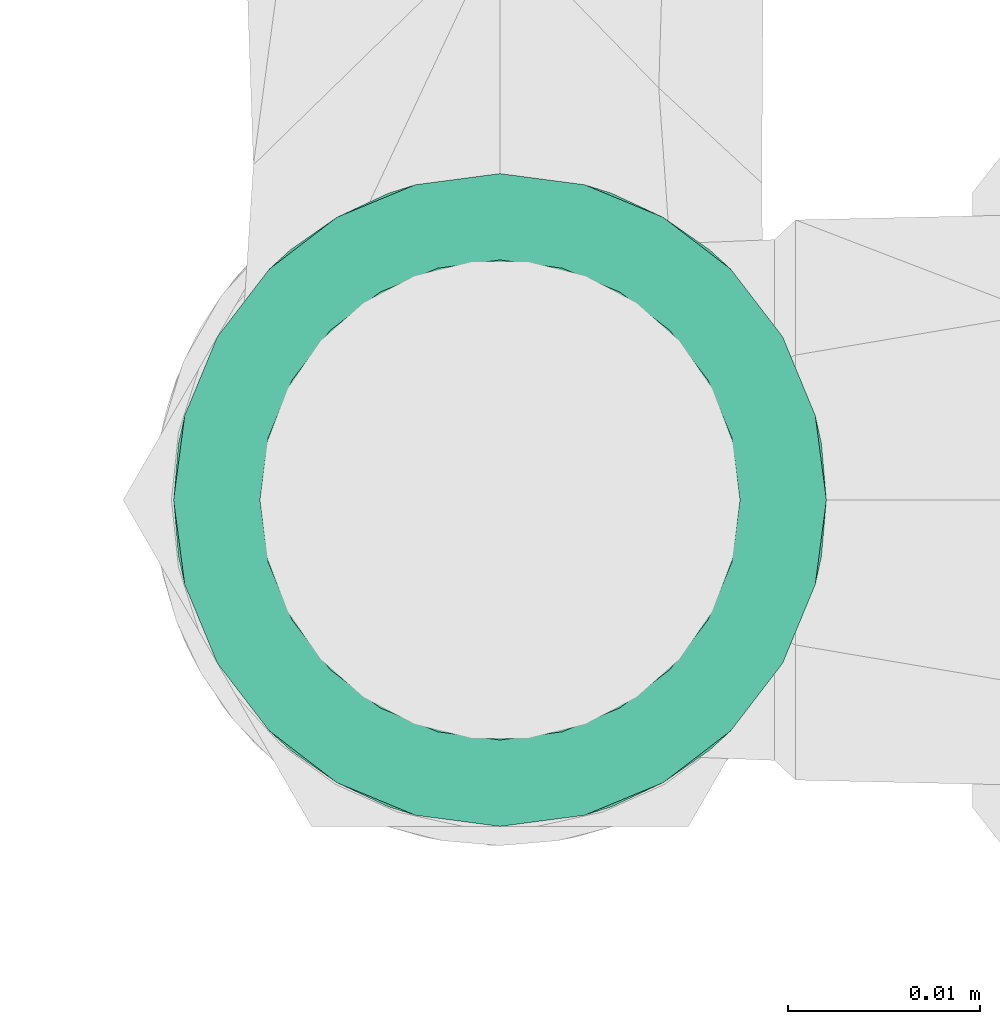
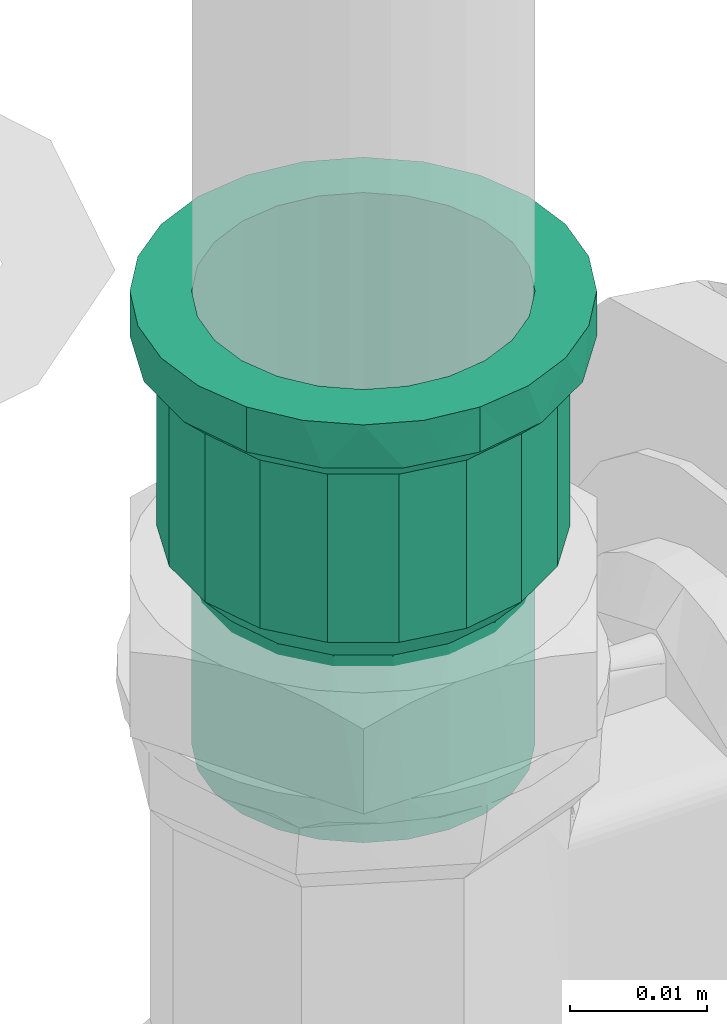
# One storey, part 360 of 589: 1 flow fitting.
"""IFC2X3 building model written with IfcOpenShell, lengths in millimetres."""

import ifcopenshell
import ifcopenshell.guid

model = None  # the IFC model being written
_history = None  # IfcOwnerHistory: only IFC2X3 demands one
_inside = {}  # id of a spatial element -> (the spatial element, [elements in it])
_under = {}  # id of a project, library or spatial element -> (it, [spatial elements below it])
_declared = {}  # id of a project -> (the project, [libraries it declares])
_typed = {}  # id of a type object -> (the type object, [elements of that type])
_made_of = {}  # id of a material, layer set ... -> (it, [elements and type objects made of it])


def new_model(schema):
    """Start an empty IFC model of exactly this schema.

    Asked for "IFC4X3", IfcOpenShell would pick the latest addendum, in which some entities
    have other attributes; the version numbers below select the first issue.
    IFC2X3 requires an IfcOwnerHistory on every rooted entity: one is made here for all.
    """
    global model, _history
    if schema == "IFC4X3":
        model = ifcopenshell.file(schema_version=(4, 3, 0, 0))
    else:
        model = ifcopenshell.file(schema=schema)
    _inside.clear()
    _under.clear()
    _declared.clear()
    _typed.clear()
    _made_of.clear()
    _history = None
    if model.schema == "IFC2X3":
        org = make("IfcOrganization", Name="unknown")
        user = make(
            "IfcPersonAndOrganization",
            ThePerson=make("IfcPerson", FamilyName="unknown"),
            TheOrganization=org,
        )
        app = make(
            "IfcApplication",
            ApplicationDeveloper=org,
            Version="unknown",
            ApplicationFullName="unknown",
            ApplicationIdentifier="unknown",
        )
        _history = make(
            "IfcOwnerHistory",
            OwningUser=user,
            OwningApplication=app,
            ChangeAction="ADDED",
            CreationDate=0,
        )
    return model


def make(cls, **values):
    """One entity of the class cls with the attributes given. An attribute that is None is left unset."""
    return model.create_entity(
        cls, **{name: value for name, value in values.items() if value is not None}
    )


def entity(cls, *values):
    """Any entity or typed value of the class cls, its attributes in the order of the schema. None: left unset."""
    e = model.create_entity(cls)
    for i, value in enumerate(values):
        if value is not None:
            e[i] = value
    return e


def rooted(cls, **values):
    """An entity with a GlobalId (a new one), such as an element, a storey or a relation."""
    return make(cls, GlobalId=ifcopenshell.guid.new(), OwnerHistory=_history, **values)


def si_unit(unit_type, name, prefix=None):
    """IfcSIUnit, for example si_unit("LENGTHUNIT", "METRE", prefix="MILLI")."""
    return make("IfcSIUnit", UnitType=unit_type, Prefix=prefix, Name=name)


def converted_unit(unit_type, name, factor, base, dimensions=None, offset=None):
    """IfcConversionBasedUnit, such as the inch: factor (a typed value) times the base unit."""
    return make(
        "IfcConversionBasedUnit"
        if offset is None
        else "IfcConversionBasedUnitWithOffset",
        ConversionOffset=offset,
        Dimensions=None
        if dimensions is None
        else entity("IfcDimensionalExponents", *dimensions),
        UnitType=unit_type,
        Name=name,
        ConversionFactor=make(
            "IfcMeasureWithUnit", ValueComponent=factor, UnitComponent=base
        ),
    )


def derived_unit(unit_type, elements):
    """IfcDerivedUnit: a product of units, each with its exponent."""
    return make(
        "IfcDerivedUnit",
        Elements=[
            make("IfcDerivedUnitElement", Unit=unit, Exponent=power)
            for unit, power in elements
        ],
        UnitType=unit_type,
    )


def assignment(units):
    """IfcUnitAssignment: the units of a project."""
    return None if units is None else make("IfcUnitAssignment", Units=units)


def point(xyz):
    """IfcCartesianPoint."""
    return None if xyz is None else make("IfcCartesianPoint", Coordinates=xyz)


def direction(xyz):
    """IfcDirection."""
    return None if xyz is None else make("IfcDirection", DirectionRatios=xyz)


def frame(location, z_axis=None, x_axis=None):
    """IfcAxis2Placement3D, a coordinate frame: its origin and axes. An axis left out is left unset."""
    return make(
        "IfcAxis2Placement3D",
        Location=point(location),
        Axis=direction(z_axis),
        RefDirection=direction(x_axis),
    )


def origin():
    """The frame at (0, 0, 0) with its axes left unset."""
    return frame((0.0, 0.0, 0.0))


def place(relative_to, where):
    """IfcLocalPlacement: puts the frame where relative to a parent placement (None: the world)."""
    return make(
        "IfcLocalPlacement", PlacementRelTo=relative_to, RelativePlacement=where
    )


def context(
    kind, dimensions, precision=None, world=None, true_north=None, identifier=None
):
    """IfcGeometricRepresentationContext, for example the 3D "Model" context."""
    return make(
        "IfcGeometricRepresentationContext",
        ContextIdentifier=identifier,
        ContextType=kind,
        CoordinateSpaceDimension=dimensions,
        Precision=precision,
        WorldCoordinateSystem=world,
        TrueNorth=true_north,
    )


def subcontext(parent, identifier, kind, view, scale=None):
    """IfcGeometricRepresentationSubContext, for example "Body" below "Model"."""
    return make(
        "IfcGeometricRepresentationSubContext",
        ContextIdentifier=identifier,
        ContextType=kind,
        ParentContext=parent,
        TargetScale=scale,
        TargetView=view,
    )


def project(units=None, contexts=None):
    """IfcProject with its units and contexts."""
    return rooted(
        "IfcProject",
        Name="project",
        RepresentationContexts=contexts,
        UnitsInContext=assignment(units),
    )


def spatial(cls, under=None, at=None, **own):
    """A site, building, storey or space (cls), placed at a placement, below another one or the project."""
    s = rooted(cls, ObjectPlacement=at, **own)
    if under is not None:
        _under.setdefault(under.id(), (under, []))[1].append(s)
    return s


def faces_of(points, faces, orient=None, outer=None):
    """IfcFace entities. A face is a list of loops; a loop is a list of indices into points, from 0.

    orient and outer hold one flag for each loop. By default every Orientation is true, the
    first loop of a face is its IfcFaceOuterBound and the others are IfcFaceBound.
    """
    made = []
    for i, loops in enumerate(faces):
        bounds = []
        for j, loop in enumerate(loops):
            is_outer = j == 0 if outer is None else outer[i][j]
            bounds.append(
                make(
                    "IfcFaceOuterBound" if is_outer else "IfcFaceBound",
                    Bound=make("IfcPolyLoop", Polygon=[points[k] for k in loop]),
                    Orientation=True if orient is None else orient[i][j],
                )
            )
        made.append(make("IfcFace", Bounds=bounds))
    return made


def faceted_brep(points, faces, orient=None, outer=None, voids=None):
    """IfcFacetedBrep: a solid bounded by flat faces; with voids (closed shells), ...WithVoids."""
    shared = [point(p) for p in points]
    hull = make("IfcClosedShell", CfsFaces=faces_of(shared, faces, orient, outer))
    if voids is None:
        return make("IfcFacetedBrep", Outer=hull)
    return make(
        "IfcFacetedBrepWithVoids",
        Outer=hull,
        Voids=[
            make(cls, CfsFaces=faces_of(shared, fs, o, b)) for cls, fs, o, b in voids
        ],
    )


def shape(context_of_items, identifier, shape_type, items):
    """IfcShapeRepresentation: the items that make up one representation, for example the "Body"."""
    return make(
        "IfcShapeRepresentation",
        ContextOfItems=context_of_items,
        RepresentationIdentifier=identifier,
        RepresentationType=shape_type,
        Items=items,
    )


def source(mapping_origin, context_of_items, identifier, shape_type, items):
    """IfcRepresentationMap: a shape defined once, which mapped items show again and again."""
    return make(
        "IfcRepresentationMap",
        MappingOrigin=mapping_origin,
        MappedRepresentation=shape(context_of_items, identifier, shape_type, items),
    )


def transform(
    local_origin,
    x_axis=None,
    y_axis=None,
    z_axis=None,
    scale=None,
    scale2=None,
    scale3=None,
    uniform=True,
):
    """IfcCartesianTransformationOperator3D, or its non-uniform kind. x_axis, y_axis, z_axis: its Axis1, 2, 3."""
    if uniform:
        return make(
            "IfcCartesianTransformationOperator3D",
            Axis1=direction(x_axis),
            Axis2=direction(y_axis),
            LocalOrigin=point(local_origin),
            Scale=scale,
            Axis3=direction(z_axis),
        )
    return make(
        "IfcCartesianTransformationOperator3DnonUniform",
        Axis1=direction(x_axis),
        Axis2=direction(y_axis),
        LocalOrigin=point(local_origin),
        Scale=scale,
        Axis3=direction(z_axis),
        Scale2=scale2,
        Scale3=scale3,
    )


def mapped(mapping_source, mapping_target):
    """IfcMappedItem: shows the shape of a source again, moved by a transform."""
    return make(
        "IfcMappedItem", MappingSource=mapping_source, MappingTarget=mapping_target
    )


def material(Name=None, Category=None):
    """IfcMaterial."""
    return make("IfcMaterial", Name=Name, Category=Category)


def made_of(thing, what):
    """Note that an element or type object is made of a material, layer set ...; save() writes the relation."""
    if what is not None:
        _made_of.setdefault(what.id(), (what, []))[1].append(thing)
    return thing


def type_object(cls, material=None, **own):
    """A type object (cls), such as IfcWallType, which elements share."""
    return made_of(rooted(cls, **own), material)


def type_shapes(of_type, sources):
    """Give a type object the sources (RepresentationMaps) that its elements show as mapped items."""
    of_type.RepresentationMaps = sources


def element(
    cls,
    number,
    at=None,
    inside=None,
    cuts=None,
    type_object=None,
    material=None,
    context=None,
    identifier="Body",
    shape_type=None,
    held_by="IfcProductDefinitionShape",
    body=None,
    shapes=None,
    **own,
):
    """One element of the class cls, such as IfcWall. Its Tag is "e" and its number.

    at: its placement. inside: the storey or other place that contains it. cuts: it is an
    opening in that element (IfcRelVoidsElement). A single representation is given by context,
    identifier, shape_type and body (its items); several are given by shapes. held_by: the class
    of the entity that holds the representations. save() writes the other relations.
    """
    e = rooted(cls, Tag="e%d" % number, ObjectPlacement=at, **own)
    if body is not None:
        shapes = [shape(context, identifier, shape_type, body)]
    if shapes is not None:
        e.Representation = make(held_by, Representations=shapes)
    if inside is not None:
        _inside.setdefault(inside.id(), (inside, []))[1].append(e)
    if cuts is not None:
        rooted(
            "IfcRelVoidsElement", RelatingBuildingElement=cuts, RelatedOpeningElement=e
        )
    if type_object is not None:
        _typed.setdefault(type_object.id(), (type_object, []))[1].append(e)
    return made_of(e, material)


def aggregate(whole, parts):
    """IfcRelAggregates: a whole, such as a stair, and the parts it consists of."""
    return rooted("IfcRelAggregates", RelatingObject=whole, RelatedObjects=parts)


def save(model, path):
    """Write the relations noted so far, then the file.

    IfcRelAggregates (storeys below a building ...), IfcRelContainedInSpatialStructure (elements
    in a storey), IfcRelDefinesByType, IfcRelAssociatesMaterial and IfcRelDeclares: one each for
    every whole, place, type object, material and project.
    """
    for whole, parts in _under.values():
        aggregate(whole, parts)
    for where, things in _inside.values():
        rooted(
            "IfcRelContainedInSpatialStructure",
            RelatedElements=things,
            RelatingStructure=where,
        )
    for kind, things in _typed.values():
        rooted("IfcRelDefinesByType", RelatedObjects=things, RelatingType=kind)
    for what, things in _made_of.values():
        rooted("IfcRelAssociatesMaterial", RelatedObjects=things, RelatingMaterial=what)
    for by, libraries in _declared.values():
        rooted("IfcRelDeclares", RelatingContext=by, RelatedDefinitions=libraries)
    model.write(path)


model = new_model("IFC2X3")

# Units and contexts
model_context = context("Model", 3, precision=0.01, world=origin(), true_north=direction((6.123031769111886e-17, 1.0)))
body_context = subcontext(model_context, "Body", "Model", "MODEL_VIEW")
ifc_project = project(units=[si_unit("LENGTHUNIT", "METRE", prefix="MILLI"), si_unit("AREAUNIT", "SQUARE_METRE"), si_unit("VOLUMEUNIT", "CUBIC_METRE"), converted_unit("PLANEANGLEUNIT", "DEGREE", entity("IfcRatioMeasure", 0.017453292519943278), si_unit("PLANEANGLEUNIT", "RADIAN"), dimensions=[0, 0, 0, 0, 0, 0, 0]), si_unit("MASSUNIT", "GRAM", prefix="KILO"), derived_unit("MASSDENSITYUNIT", [(si_unit("MASSUNIT", "GRAM", prefix="KILO"), 1), (si_unit("LENGTHUNIT", "METRE"), -3)]), derived_unit("IONCONCENTRATIONUNIT", [(si_unit("MASSUNIT", "GRAM", prefix="KILO"), 1), (si_unit("LENGTHUNIT", "METRE"), -3)]), derived_unit("MOMENTOFINERTIAUNIT", [(si_unit("LENGTHUNIT", "METRE"), 4)]), si_unit("TIMEUNIT", "SECOND"), si_unit("FREQUENCYUNIT", "HERTZ"), si_unit("THERMODYNAMICTEMPERATUREUNIT", "DEGREE_CELSIUS"), derived_unit("THERMALTRANSMITTANCEUNIT", [(si_unit("MASSUNIT", "GRAM", prefix="KILO"), 1), (si_unit("THERMODYNAMICTEMPERATUREUNIT", "KELVIN"), -1), (si_unit("TIMEUNIT", "SECOND"), -3)]), derived_unit("THERMALCONDUCTANCEUNIT", [(si_unit("MASSUNIT", "GRAM", prefix="KILO"), 1), (si_unit("THERMODYNAMICTEMPERATUREUNIT", "KELVIN"), -1), (si_unit("TIMEUNIT", "SECOND"), -3), (si_unit("LENGTHUNIT", "METRE"), 1)]), derived_unit("VOLUMETRICFLOWRATEUNIT", [(si_unit("LENGTHUNIT", "METRE"), 3), (si_unit("TIMEUNIT", "SECOND"), -1)]), derived_unit("MASSFLOWRATEUNIT", [(si_unit("MASSUNIT", "GRAM", prefix="KILO"), 1), (si_unit("TIMEUNIT", "SECOND"), -1)]), derived_unit("ROTATIONALFREQUENCYUNIT", [(si_unit("TIMEUNIT", "SECOND"), -1)]), si_unit("ELECTRICCURRENTUNIT", "AMPERE"), si_unit("ELECTRICVOLTAGEUNIT", "VOLT"), si_unit("POWERUNIT", "WATT"), si_unit("FORCEUNIT", "NEWTON", prefix="KILO"), si_unit("ILLUMINANCEUNIT", "LUX"), si_unit("LUMINOUSFLUXUNIT", "LUMEN"), si_unit("LUMINOUSINTENSITYUNIT", "CANDELA"), derived_unit("USERDEFINED", [(si_unit("MASSUNIT", "GRAM", prefix="KILO"), -1), (si_unit("LENGTHUNIT", "METRE"), -2), (si_unit("TIMEUNIT", "SECOND"), 3), (si_unit("LUMINOUSFLUXUNIT", "LUMEN"), 1)]), derived_unit("USERDEFINED", [(si_unit("MASSUNIT", "GRAM", prefix="KILO"), 1), (si_unit("TIMEUNIT", "SECOND"), -3), (si_unit("LENGTHUNIT", "METRE"), 3), (si_unit("ELECTRICCURRENTUNIT", "AMPERE"), -2)]), derived_unit("SOUNDPOWERUNIT", [(si_unit("MASSUNIT", "GRAM", prefix="KILO"), 1), (si_unit("TIMEUNIT", "SECOND"), -3), (si_unit("LENGTHUNIT", "METRE"), 2)]), derived_unit("SOUNDPRESSUREUNIT", [(si_unit("MASSUNIT", "GRAM", prefix="KILO"), 1), (si_unit("LENGTHUNIT", "METRE"), -1), (si_unit("TIMEUNIT", "SECOND"), -2)]), derived_unit("LINEARVELOCITYUNIT", [(si_unit("LENGTHUNIT", "METRE"), 1), (si_unit("TIMEUNIT", "SECOND"), -1)]), si_unit("PRESSUREUNIT", "PASCAL"), derived_unit("USERDEFINED", [(si_unit("MASSUNIT", "GRAM", prefix="KILO"), 1), (si_unit("LENGTHUNIT", "METRE"), -2), (si_unit("TIMEUNIT", "SECOND"), -2)]), derived_unit("LINEARFORCEUNIT", [(si_unit("MASSUNIT", "GRAM", prefix="KILO"), 1), (si_unit("TIMEUNIT", "SECOND"), -2)]), derived_unit("PLANARFORCEUNIT", [(si_unit("MASSUNIT", "GRAM", prefix="KILO"), 1), (si_unit("LENGTHUNIT", "METRE"), -1), (si_unit("TIMEUNIT", "SECOND"), -2)]), derived_unit("SPECIFICHEATCAPACITYUNIT", [(si_unit("THERMODYNAMICTEMPERATUREUNIT", "KELVIN"), -1), (si_unit("LENGTHUNIT", "METRE"), 2), (si_unit("TIMEUNIT", "SECOND"), -2)]), derived_unit("HEATINGVALUEUNIT", [(si_unit("LENGTHUNIT", "METRE"), 2), (si_unit("TIMEUNIT", "SECOND"), -2)]), derived_unit("VAPORPERMEABILITYUNIT", [(si_unit("LENGTHUNIT", "METRE"), -1), (si_unit("TIMEUNIT", "SECOND"), 1)]), derived_unit("DYNAMICVISCOSITYUNIT", [(si_unit("MASSUNIT", "GRAM", prefix="KILO"), 1), (si_unit("TIMEUNIT", "SECOND"), -1), (si_unit("LENGTHUNIT", "METRE"), -1)]), derived_unit("THERMALEXPANSIONCOEFFICIENTUNIT", [(si_unit("THERMODYNAMICTEMPERATUREUNIT", "KELVIN"), -1)]), derived_unit("MODULUSOFELASTICITYUNIT", [(si_unit("MASSUNIT", "GRAM", prefix="KILO"), 1), (si_unit("LENGTHUNIT", "METRE"), -1), (si_unit("TIMEUNIT", "SECOND"), -2)]), derived_unit("ISOTHERMALMOISTURECAPACITYUNIT", [(si_unit("LENGTHUNIT", "METRE"), 3), (si_unit("MASSUNIT", "GRAM", prefix="KILO"), -1)]), derived_unit("MOISTUREDIFFUSIVITYUNIT", [(si_unit("TIMEUNIT", "SECOND"), -1), (si_unit("LENGTHUNIT", "METRE"), 2)])], contexts=[model_context])

# Site, building, storey
site_placement = place(None, origin())
site = spatial("IfcSite", under=ifc_project, at=site_placement, Name="Default", CompositionType="ELEMENT")
building_placement = place(site_placement, origin())
building = spatial("IfcBuilding", under=site, at=building_placement, CompositionType="ELEMENT")
storey_placement = place(building_placement, frame((0.0, 0.0, 100.0)))
storey = spatial("IfcBuildingStorey", under=building, at=storey_placement, Name="TÉRREO", CompositionType="ELEMENT", Elevation=100.0)

# Flow fitting
ifc_material = material(Name="PVC Marrom")
pipe_fitting_type = type_object("IfcPipeFittingType", Name="PVC Marrom Soldável_Adaptador Curto com Bolsa e Rosca Aninhado_Rodrigo MEP:Adaptador", PredefinedType="NOTDEFINED", material=ifc_material)
shared_shape = source(origin(), body_context, "Body", "Brep", [
    faceted_brep([(0.0, 6.2499999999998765, -10.825317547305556), (0.0, 12.020815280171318, -12.0208152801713), (0.0, 8.500000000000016, -14.72243186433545), (0.0, 8.838834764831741, -8.83883476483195), (0.0, 3.2352380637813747, -12.07407282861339), (0.0, 14.722431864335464, -8.499999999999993), (0.0, 10.825317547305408, -6.250000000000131), (0.0, 12.074072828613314, -3.2352380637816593), (0.0, 16.42073904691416, -4.399923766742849), (0.0, 12.5, 0.0), (0.0, 17.0, 0.0), (0.0, 12.074072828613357, 3.2352380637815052), (0.0, 16.420739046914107, 4.399923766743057), (0.0, 10.825317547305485, 6.2499999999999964), (0.0, 14.722431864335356, 8.500000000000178), (0.0, 8.83883476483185, 8.838834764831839), (0.0, 12.020815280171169, 12.020815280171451), (0.0, 6.250000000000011, 10.82531754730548), (0.0, 8.499999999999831, 14.722431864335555), (0.0, 3.2352380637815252, 12.07407282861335), (0.0, 4.39992376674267, 16.42073904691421), (0.0, 0.0, 12.5), (0.0, 0.0, 17.0), (0.0, -3.2352380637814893, 12.07407282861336), (0.0, -4.399923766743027, 16.420739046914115), (0.0, -6.24999999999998, 10.825317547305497), (0.0, -8.500000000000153, 14.722431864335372), (0.0, -8.838834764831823, 8.838834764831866), (0.0, -12.020815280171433, 12.020815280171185), (0.0, -10.82531754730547, 6.250000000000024), (0.0, -14.722431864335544, 8.499999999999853), (0.0, -16.42073904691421, 4.399923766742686), (0.0, -12.074072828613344, 3.2352380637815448), (0.0, -17.0, 0.0), (0.0, -12.5, 0.0), (0.0, -16.42073904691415, -4.399923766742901), (0.0, -12.074072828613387, -3.235238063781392), (0.0, -14.722431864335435, -8.500000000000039), (0.0, -10.82531754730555, -6.249999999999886), (0.0, -12.02081528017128, -12.020815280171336), (0.0, -8.838834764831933, -8.838834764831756), (0.0, -8.499999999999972, -14.722431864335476), (0.0, -6.250000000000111, -10.825317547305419), (0.0, -4.399923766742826, -16.42073904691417), (0.0, -3.235238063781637, -12.074072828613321), (0.0, 0.0, -17.0), (0.0, 0.0, -12.5), (0.0, 4.399923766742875, -16.420739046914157), (4.0, -16.487306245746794, 2.907393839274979), (4.0, -15.974612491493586, 5.8147876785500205), (4.0, -13.022146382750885, 10.928115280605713), (4.0, -10.760457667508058, 12.825628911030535), (4.0, -14.498379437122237, 8.371451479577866), (4.0, -2.9501525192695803, 16.742060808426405), (4.0, -5.724460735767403, 15.732601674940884), (4.0, -17.0, 0.0), (4.0, -16.59968259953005, 2.27012779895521), (4.0, -8.498768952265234, 14.723142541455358), (4.0, 5.728407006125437, 15.731165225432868), (4.0, 8.502461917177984, 14.721010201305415), (4.0, 2.954352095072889, 16.74132024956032), (4.0, 10.763674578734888, 12.82292929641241), (4.0, 13.02488724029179, 10.924848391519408), (4.0, 15.976070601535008, 5.8107803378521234), (4.0, 17.0, 0.0), (4.0, 14.5004789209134, 8.367814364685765), (4.0, 0.002099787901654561, 16.741690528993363), (4.0, 15.97607060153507, -5.810780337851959), (4.0, 13.024887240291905, -10.92484839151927), (4.0, 10.763674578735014, -12.822929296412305), (4.0, 14.500478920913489, -8.367814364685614), (4.0, 2.9543520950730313, -16.741320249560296), (4.0, 5.728407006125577, -15.731165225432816), (4.0, 8.502461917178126, -14.721010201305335), (4.0, -16.487306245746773, -2.907393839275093), (4.0, -5.724460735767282, -15.732601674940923), (4.0, -8.498768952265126, -14.72314254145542), (4.0, -2.950152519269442, -16.74206080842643), (4.0, -10.760457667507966, -12.825628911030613), (4.0, -13.022146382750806, -10.928115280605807), (4.0, -15.974612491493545, -5.814787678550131), (4.0, -14.498379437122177, -8.371451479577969), (4.0, 0.002099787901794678, -16.741690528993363), (4.0, -16.599682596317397, -2.2701278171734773), (20.84999999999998, -14.142230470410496, 5.147797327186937), (5.900000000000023, -14.142230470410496, 5.147797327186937), (5.900000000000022, -14.59611523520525, 2.573898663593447), (5.900000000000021, -15.05, 0.0), (20.850000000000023, -15.05, 0.0), (20.85, -14.596115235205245, 2.573898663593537), (20.849999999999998, -14.535973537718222, 2.91495138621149), (20.84999999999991, -7.523910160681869, 13.034311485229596), (5.900000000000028, -7.523910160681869, 13.034311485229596), (5.900000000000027, -9.526169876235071, 11.354453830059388), (5.900000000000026, -11.528429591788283, 9.674596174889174), (20.84999999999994, -11.528429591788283, 9.674596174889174), (20.849999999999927, -9.52616987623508, 11.354453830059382), (5.900000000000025, -12.83533003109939, 7.411196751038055), (20.849999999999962, -12.835330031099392, 7.411196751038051), (5.900000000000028, -5.067831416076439, 13.927979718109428), (20.849999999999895, -5.067831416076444, 13.927979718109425), (20.849999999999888, -2.6117526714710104, 14.821647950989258), (5.900000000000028, -2.6117526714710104, 14.821647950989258), (5.900000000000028, 0.0018589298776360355, 14.8213201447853), (20.849999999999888, 0.0018589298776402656, 14.821320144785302), (20.849999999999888, 2.61547053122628, 14.820992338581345), (5.900000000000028, 2.615470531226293, 14.820992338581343), (20.849999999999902, 7.527179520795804, 13.032423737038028), (5.900000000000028, 7.527179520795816, 13.032423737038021), (5.900000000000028, 5.071325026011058, 13.92670803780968), (20.849999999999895, 5.0713250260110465, 13.926708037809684), (20.84999999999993, 11.530856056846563, 9.671704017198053), (5.900000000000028, 11.530856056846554, 9.671704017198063), (5.900000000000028, 9.52901778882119, 11.35206387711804), (20.849999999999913, 9.529017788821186, 11.352063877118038), (20.849999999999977, 14.143521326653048, 5.144249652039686), (5.900000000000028, 14.143521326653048, 5.144249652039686), (5.900000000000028, 12.837188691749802, 7.407976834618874), (20.849999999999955, 12.837188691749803, 7.407976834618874), (20.850000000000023, 15.05, 0.0), (5.900000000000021, 15.05, 0.0), (20.85000000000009, 14.143521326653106, -5.144249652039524), (5.900000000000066, 14.143521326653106, -5.144249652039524), (5.900000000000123, 7.527179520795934, -13.032423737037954), (5.900000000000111, 9.529017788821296, -11.352063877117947), (5.900000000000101, 11.530856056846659, -9.67170401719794), (20.85000000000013, 11.530856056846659, -9.67170401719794), (20.85000000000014, 9.529017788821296, -11.352063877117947), (20.850000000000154, 7.527179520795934, -13.032423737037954), (20.850000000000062, -14.142230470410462, -5.147797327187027), (5.900000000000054, -14.142230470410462, -5.147797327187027), (5.90000000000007, -12.835330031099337, -7.411196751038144), (5.900000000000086, -11.528429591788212, -9.67459617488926), (20.850000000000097, -11.528429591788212, -9.67459617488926), (20.850000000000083, -12.835330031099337, -7.411196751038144), (20.850000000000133, -7.523910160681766, -13.034311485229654), (5.900000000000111, -7.523910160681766, -13.034311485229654), (5.90000000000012, -5.067831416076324, -13.927979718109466), (5.900000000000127, -2.6117526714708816, -14.821647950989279), (20.850000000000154, -2.6117526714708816, -14.821647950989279), (20.85000000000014, -5.067831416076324, -13.927979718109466), (5.900000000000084, 12.837188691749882, -7.407976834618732), (20.850000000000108, 12.837188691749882, -7.40797683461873), (5.900000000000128, 5.071325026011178, -13.926708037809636), (20.850000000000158, 5.071325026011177, -13.926708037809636), (20.85000000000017, 2.6154705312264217, -14.82099233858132), (5.900000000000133, 2.6154705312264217, -14.82099233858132), (20.850000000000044, -14.535973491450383, -2.91495164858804), (20.85000000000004, -14.667751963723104, -2.1676596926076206), (5.900000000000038, -14.596115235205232, -2.573898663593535), (5.900000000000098, -9.526169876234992, -11.354453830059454), (20.850000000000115, -9.52616987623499, -11.354453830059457), (5.900000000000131, 0.0018589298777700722, -14.821320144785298), (20.850000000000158, 0.0018589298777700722, -14.821320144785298), (40.29999999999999, 3.2352380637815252, -12.07407282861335), (40.29999999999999, 6.250000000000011, -10.82531754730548), (40.29999999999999, 8.83883476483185, -8.838834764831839), (40.29999999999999, 10.825317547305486, -6.249999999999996), (40.29999999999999, 12.074072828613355, -3.2352380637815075), (40.29999999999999, 12.5, 0.0), (40.29999999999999, 12.074072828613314, 3.2352380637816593), (40.29999999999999, 10.825317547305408, 6.250000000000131), (40.29999999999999, 8.838834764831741, 8.83883476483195), (40.29999999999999, 6.2499999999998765, 10.825317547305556), (40.29999999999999, 3.2352380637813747, 12.07407282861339), (40.29999999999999, 0.0, 12.5), (40.29999999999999, -3.235238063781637, 12.074072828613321), (40.29999999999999, -6.250000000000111, 10.825317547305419), (40.29999999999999, -8.838834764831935, 8.838834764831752), (40.29999999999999, -10.825317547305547, 6.249999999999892), (40.29999999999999, -12.074072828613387, 3.235238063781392), (40.29999999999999, -12.5, 0.0), (40.29999999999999, -12.074072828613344, -3.2352380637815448), (40.29999999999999, -10.825317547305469, -6.2500000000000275), (40.29999999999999, -8.838834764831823, -8.838834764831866), (40.29999999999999, -6.24999999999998, -10.825317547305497), (40.29999999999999, -3.2352380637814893, -12.07407282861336), (40.29999999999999, 0.0, -12.5), (23.749999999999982, -12.5, 0.0), (23.74999999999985, -9.57510763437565, 8.035378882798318), (23.749999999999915, -11.746038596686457, 4.275579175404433), (23.749999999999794, -6.249094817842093, 10.825840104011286), (23.74999999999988, -10.660573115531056, 6.155479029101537), (23.74999999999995, -12.182518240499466, 1.8003818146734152), (23.74999999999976, -2.1692297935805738, 12.310338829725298), (23.74999999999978, -4.209162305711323, 11.56808946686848), (23.74999999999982, -7.912101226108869, 9.430609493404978), (23.749999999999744, 2.1723177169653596, 12.309794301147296), (23.749999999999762, 6.251810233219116, 10.824272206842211), (23.749999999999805, 9.577122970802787, 8.032976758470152), (23.749999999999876, 11.747110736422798, 4.272632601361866), (23.749999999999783, 7.9144666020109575, 9.428624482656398), (23.74999999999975, 4.212063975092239, 11.56703325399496), (23.749999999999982, 12.5, 0.0), (23.749999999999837, 10.662116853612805, 6.15280467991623), (23.74999999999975, 0.0015439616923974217, 12.31006656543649), (23.750000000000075, 9.577122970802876, -8.032976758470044), (23.75000000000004, 11.747110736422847, -4.272632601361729), (23.750000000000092, 6.2518102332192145, -10.824272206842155), (23.750000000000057, 10.662116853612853, -6.152804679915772), (23.7500000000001, 2.1723177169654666, -12.309794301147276), (23.7500000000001, 4.212063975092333, -11.56703325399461), (23.75000000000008, 7.914466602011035, -9.428624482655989), (23.750000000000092, -2.1692297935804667, -12.310338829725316), (23.750000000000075, -6.249094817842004, -10.82584010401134), (23.750000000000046, -9.575107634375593, -8.035378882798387), (23.750000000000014, -11.74603859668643, -4.275579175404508), (23.750000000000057, -7.912101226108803, -9.430609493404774), (23.75000000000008, -4.20916230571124, -11.56808946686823), (23.749999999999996, -12.123019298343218, -2.1377895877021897), (23.750000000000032, -10.660573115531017, -6.155479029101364), (23.7500000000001, 0.0015439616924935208, -12.310066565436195), (5.900000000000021, -12.5, 0.0), (20.850000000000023, -12.5, 0.0), (20.850000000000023, -12.07407282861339, -3.2352380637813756), (5.900000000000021, -12.07407282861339, -3.2352380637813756), (4.0, -12.07407282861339, -3.2352380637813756), (4.0, -12.5, 0.0), (20.850000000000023, -10.825317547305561, -6.249999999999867), (5.900000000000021, -10.825317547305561, -6.249999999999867), (4.0, -10.825317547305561, -6.249999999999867), (5.900000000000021, -6.250000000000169, -10.825317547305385), (4.0, -6.250000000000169, -10.825317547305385), (4.0, -8.838834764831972, -8.838834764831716), (5.900000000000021, -8.838834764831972, -8.838834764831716), (20.850000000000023, -8.838834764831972, -8.838834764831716), (20.850000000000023, -6.250000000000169, -10.825317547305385), (5.900000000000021, -3.235238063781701, -12.074072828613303), (4.0, -3.235238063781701, -12.074072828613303), (20.850000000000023, -3.235238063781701, -12.074072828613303), (20.850000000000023, 0.0, -12.5), (5.900000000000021, 0.0, -12.5), (4.0, 0.0, -12.5), (20.850000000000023, 3.2352380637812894, -12.074072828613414), (5.900000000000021, 3.2352380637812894, -12.074072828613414), (4.0, 3.2352380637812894, -12.074072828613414), (20.850000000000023, 6.24999999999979, -10.825317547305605), (5.900000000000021, 6.24999999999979, -10.825317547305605), (4.0, 6.24999999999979, -10.825317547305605), (5.900000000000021, 10.825317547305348, -6.250000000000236), (4.0, 10.825317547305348, -6.250000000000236), (4.0, 8.838834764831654, -8.838834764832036), (5.900000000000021, 8.838834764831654, -8.838834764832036), (20.850000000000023, 8.838834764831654, -8.838834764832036), (20.850000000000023, 10.825317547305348, -6.250000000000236), (5.900000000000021, 12.07407282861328, -3.2352380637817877), (4.0, 12.07407282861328, -3.2352380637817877), (20.850000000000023, 12.07407282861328, -3.2352380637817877), (20.850000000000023, 12.5, 0.0), (5.900000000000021, 12.5, 0.0), (4.0, 12.5, 0.0), (20.850000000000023, 12.074072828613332, 3.2352380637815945), (5.900000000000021, 12.074072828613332, 3.2352380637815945), (4.0, 12.074072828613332, 3.2352380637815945), (20.850000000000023, 10.82531754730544, 6.250000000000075), (5.900000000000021, 10.82531754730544, 6.250000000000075), (4.0, 10.82531754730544, 6.250000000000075), (5.900000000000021, 6.249999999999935, 10.825317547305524), (4.0, 6.249999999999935, 10.825317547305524), (4.0, 8.838834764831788, 8.838834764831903), (5.900000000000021, 8.838834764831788, 8.838834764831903), (20.850000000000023, 8.838834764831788, 8.838834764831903), (20.850000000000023, 6.249999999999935, 10.825317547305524), (5.900000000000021, 3.2352380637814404, 12.074072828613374), (4.0, 3.2352380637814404, 12.074072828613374), (20.850000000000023, 3.2352380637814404, 12.074072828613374), (20.850000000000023, 0.0, 12.5), (5.900000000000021, 0.0, 12.5), (4.0, 0.0, 12.5), (20.850000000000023, -3.2352380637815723, 12.074072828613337), (5.900000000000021, -3.2352380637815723, 12.074072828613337), (4.0, -3.2352380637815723, 12.074072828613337), (20.850000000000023, -6.250000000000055, 10.825317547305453), (5.900000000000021, -6.250000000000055, 10.825317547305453), (4.0, -6.250000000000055, 10.825317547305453), (5.900000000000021, -10.825317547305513, 6.249999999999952), (4.0, -10.825317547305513, 6.249999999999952), (4.0, -8.838834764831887, 8.838834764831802), (5.900000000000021, -8.838834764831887, 8.838834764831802), (20.850000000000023, -8.838834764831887, 8.838834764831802), (20.850000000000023, -10.825317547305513, 6.249999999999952), (5.900000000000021, -12.07407282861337, 3.2352380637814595), (4.0, -12.07407282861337, 3.2352380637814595), (20.850000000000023, -12.07407282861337, 3.2352380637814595)], [[[0, 1, 2]], [[3, 1, 0]], [[4, 0, 2]], [[1, 3, 5]], [[5, 3, 6]], [[5, 6, 7]], [[8, 5, 7]], [[9, 8, 7]], [[10, 8, 9]], [[10, 9, 11]], [[12, 10, 11]], [[12, 11, 13]], [[14, 12, 13]], [[14, 13, 15]], [[15, 16, 14]], [[15, 17, 16]], [[18, 16, 17]], [[19, 18, 17]], [[18, 19, 20]], [[21, 20, 19]], [[22, 20, 21]], [[21, 23, 22]], [[24, 22, 23]], [[25, 24, 23]], [[24, 25, 26]], [[25, 27, 26]], [[27, 28, 26]], [[28, 27, 29]], [[28, 29, 30]], [[30, 29, 31]], [[31, 29, 32]], [[33, 31, 32]], [[32, 34, 33]], [[33, 34, 35]], [[34, 36, 35]], [[37, 35, 36]], [[37, 36, 38]], [[39, 37, 38]], [[40, 39, 38]], [[40, 41, 39]], [[42, 41, 40]], [[43, 41, 42]], [[42, 44, 43]], [[43, 44, 45]], [[46, 45, 44]], [[46, 4, 47]], [[45, 46, 47]], [[2, 47, 4]], [[48, 49, 31]], [[28, 50, 51]], [[50, 30, 49, 52]], [[53, 24, 54]], [[30, 31, 49]], [[33, 55, 56, 48]], [[51, 57, 26]], [[51, 26, 28]], [[30, 50, 28]], [[58, 59, 18]], [[58, 18, 20]], [[26, 57, 54]], [[26, 54, 24]], [[22, 24, 53]], [[33, 48, 31]], [[20, 60, 58]], [[16, 61, 62]], [[12, 63, 64]], [[63, 14, 62, 65]], [[12, 64, 10]], [[18, 61, 16]], [[22, 53, 66, 60]], [[22, 60, 20]], [[14, 16, 62]], [[59, 61, 18]], [[14, 63, 12]], [[8, 64, 67]], [[1, 68, 69]], [[68, 5, 67, 70]], [[71, 47, 72]], [[5, 8, 67]], [[8, 10, 64]], [[2, 72, 47]], [[69, 73, 2]], [[5, 68, 1]], [[74, 33, 35]], [[75, 76, 41]], [[2, 73, 72]], [[75, 41, 43]], [[45, 47, 71]], [[69, 2, 1]], [[43, 77, 75]], [[39, 78, 79]], [[35, 80, 74]], [[80, 37, 79, 81]], [[37, 80, 35]], [[41, 78, 39]], [[45, 71, 82, 77]], [[45, 77, 43]], [[37, 39, 79]], [[76, 78, 41]], [[33, 74, 83, 55]], [[84, 85, 86, 87, 88, 89, 90]], [[91, 92, 93, 94, 95, 96]], [[97, 85, 84, 98, 95, 94]], [[99, 92, 91, 100, 101, 102]], [[103, 102, 101, 104, 105, 106]], [[107, 108, 109, 106, 105, 110]], [[111, 112, 113, 108, 107, 114]], [[115, 116, 117, 112, 111, 118]], [[115, 119, 120, 116]], [[120, 119, 121, 122]], [[123, 124, 125, 126, 127, 128]], [[129, 130, 131, 132, 133, 134]], [[135, 136, 137, 138, 139, 140]], [[141, 122, 121, 142, 126, 125]], [[143, 123, 128, 144, 145, 146]], [[147, 148, 88, 87, 149, 130, 129]], [[133, 132, 150, 136, 135, 151]], [[152, 146, 145, 153, 139, 138]], [[154, 155, 156, 157, 158, 159, 160, 161, 162, 163, 164, 165, 166, 167, 168, 169, 170, 171, 172, 173, 174, 175, 176, 177]], [[178, 171, 170]], [[179, 169, 168]], [[170, 169, 180]], [[168, 167, 181]], [[169, 179, 182, 180]], [[170, 180, 183, 178]], [[166, 184, 185, 181]], [[168, 181, 186, 179]], [[184, 166, 165]], [[181, 167, 166]], [[164, 187, 165]], [[163, 188, 164]], [[189, 162, 161]], [[163, 162, 188]], [[190, 161, 160]], [[162, 189, 191, 188]], [[164, 188, 192, 187]], [[160, 193, 190]], [[161, 190, 194, 189]], [[160, 159, 193]], [[165, 187, 195, 184]], [[193, 159, 158]], [[196, 157, 156]], [[158, 157, 197]], [[156, 155, 198]], [[157, 196, 199, 197]], [[197, 193, 158]], [[154, 200, 201, 198]], [[156, 198, 202, 196]], [[200, 154, 177]], [[198, 155, 154]], [[176, 203, 177]], [[175, 204, 176]], [[205, 174, 173]], [[175, 174, 204]], [[206, 173, 172]], [[174, 205, 207, 204]], [[176, 204, 208, 203]], [[172, 178, 209, 206]], [[173, 206, 210, 205]], [[172, 171, 178]], [[177, 203, 211, 200]], [[212, 213, 214, 215, 216, 36, 34, 217]], [[215, 214, 218, 219, 220, 38, 36, 216]], [[221, 222, 42, 40, 223, 224, 225, 226]], [[225, 224, 223, 40, 38, 220, 219, 218]], [[227, 228, 44, 42, 222, 221, 226, 229]], [[227, 229, 230, 231, 232, 46, 44, 228]], [[231, 230, 233, 234, 235, 4, 46, 232]], [[234, 233, 236, 237, 238, 0, 4, 235]], [[239, 240, 6, 3, 241, 242, 243, 244]], [[243, 242, 241, 3, 0, 238, 237, 236]], [[245, 246, 7, 6, 240, 239, 244, 247]], [[245, 247, 248, 249, 250, 9, 7, 246]], [[249, 248, 251, 252, 253, 11, 9, 250]], [[252, 251, 254, 255, 256, 13, 11, 253]], [[257, 258, 17, 15, 259, 260, 261, 262]], [[261, 260, 259, 15, 13, 256, 255, 254]], [[263, 264, 19, 17, 258, 257, 262, 265]], [[263, 265, 266, 267, 268, 21, 19, 264]], [[267, 266, 269, 270, 271, 23, 21, 268]], [[270, 269, 272, 273, 274, 25, 23, 271]], [[275, 276, 29, 27, 277, 278, 279, 280]], [[279, 278, 277, 27, 25, 274, 273, 272]], [[281, 282, 32, 29, 276, 275, 280, 283]], [[281, 283, 213, 212, 217, 34, 32, 282]], [[120, 122, 67, 64]], [[73, 123, 143, 146, 71, 72]], [[123, 73, 69, 68, 125, 124]], [[70, 67, 122, 141, 125, 68]], [[77, 138, 137, 136, 76, 75]], [[130, 80, 81, 79, 132, 131]], [[149, 87, 55, 83, 74, 80, 130]], [[82, 71, 146, 152, 138, 77]], [[78, 76, 136, 150, 132, 79]], [[49, 48, 56, 55, 87, 86, 85]], [[52, 49, 85, 97, 94, 50]], [[51, 50, 94, 93, 92, 57]], [[92, 99, 102, 53, 54, 57]], [[103, 106, 60, 66, 53, 102]], [[109, 108, 59, 58, 60, 106]], [[116, 120, 64, 63]], [[112, 117, 116, 63, 65, 62]], [[108, 113, 112, 62, 61, 59]], [[233, 230, 229, 226, 225, 218, 214, 213, 283, 280, 279, 272, 269, 266, 265, 262, 261, 254, 251, 248, 247, 244, 243, 236]], [[180, 84, 90, 89, 88, 178, 183]], [[184, 101, 100, 91, 181, 185]], [[96, 95, 179, 186, 181, 91]], [[98, 84, 180, 182, 179, 95]], [[101, 184, 195, 187, 105, 104]], [[190, 115, 118, 111, 189, 194]], [[105, 187, 192, 188, 107, 110]], [[190, 193, 119, 115]], [[114, 107, 188, 191, 189, 111]], [[193, 197, 121, 119]], [[128, 198, 201, 200, 145, 144]], [[198, 128, 127, 126, 196, 202]], [[142, 121, 197, 199, 196, 126]], [[139, 203, 208, 204, 135, 140]], [[206, 129, 134, 133, 205, 210]], [[209, 178, 88, 148, 147, 129, 206]], [[153, 145, 200, 211, 203, 139]], [[151, 135, 204, 207, 205, 133]]]),
])
type_shapes(pipe_fitting_type, [shared_shape])
flow_fitting_placement = place(storey_placement, frame((-7250.812352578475, 758.1190686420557, 2254.75), z_axis=(1.0, 0.0, 0.0), x_axis=(0.0, 0.0, -1.0)))
element("IfcFlowFitting", 1, at=flow_fitting_placement, inside=storey, type_object=pipe_fitting_type, material=ifc_material, Name="PVC Marrom Soldável_Adaptador Curto com Bolsa e Rosca Aninhado_Rodrigo MEP:Adaptador", ObjectType="PVC Marrom Soldável_Adaptador Curto com Bolsa e Rosca Aninhado_Rodrigo MEP:Adaptador", context=body_context, shape_type="MappedRepresentation", body=[
    mapped(shared_shape, transform((0.0, 0.0, 0.0), scale=1.0)),
])

save(model, "model.ifc")
